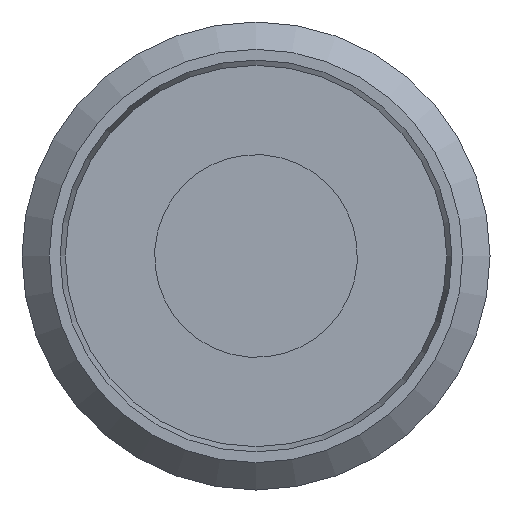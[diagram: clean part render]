
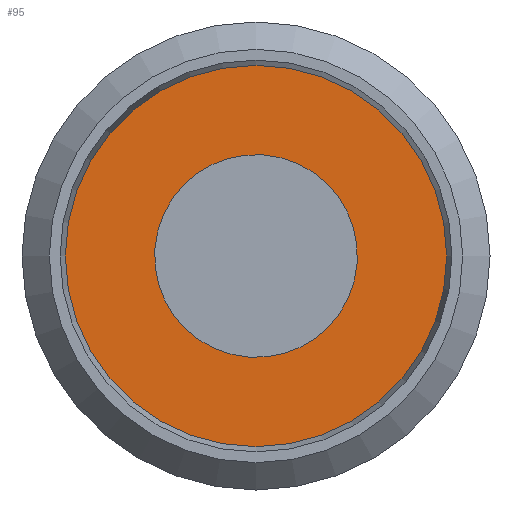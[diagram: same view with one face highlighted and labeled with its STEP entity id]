
A CAD part, front view. The second image highlights one B-rep face of the part: STEP entity #95.
In plain terms, the highlighted planar face has unit normal (0, -1, 0).
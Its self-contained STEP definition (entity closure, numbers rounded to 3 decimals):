
#68=CARTESIAN_POINT('',(0.,0.5,0.));
#69=DIRECTION('',(0.0,1.0,0.0));
#70=DIRECTION('',(-1.0,0.0,0.0));
#71=AXIS2_PLACEMENT_3D('',#68,#69,#70);
#72=PLANE('',#71);
#73=CARTESIAN_POINT('',(4.888,0.5,0.));
#74=VERTEX_POINT('',#73);
#75=CARTESIAN_POINT('',(0.0,0.5,0.0));
#76=DIRECTION('',(0.0,1.0,0.0));
#77=DIRECTION('',(-1.0,0.0,0.0));
#78=AXIS2_PLACEMENT_3D('',#75,#76,#77);
#79=CIRCLE('',#78,4.888);
#80=EDGE_CURVE('',#74,#74,#79,.T.);
#81=ORIENTED_EDGE('',*,*,#80,.F.);
#82=EDGE_LOOP('',(#81));
#83=FACE_OUTER_BOUND('',#82,.T.);
#84=CARTESIAN_POINT('',(-1.518,0.5,2.111));
#85=VERTEX_POINT('',#84);
#86=CARTESIAN_POINT('',(0.,0.5,0.));
#87=DIRECTION('',(0.,-1.,0.));
#88=DIRECTION('',(0.584,0.,-0.812));
#89=AXIS2_PLACEMENT_3D('',#86,#87,#88);
#90=CIRCLE('',#89,2.6);
#91=EDGE_CURVE('',#85,#85,#90,.T.);
#92=ORIENTED_EDGE('',*,*,#91,.F.);
#93=EDGE_LOOP('',(#92));
#94=FACE_BOUND('',#93,.T.);
#95=ADVANCED_FACE('',(#83,#94),#72,.F.);
